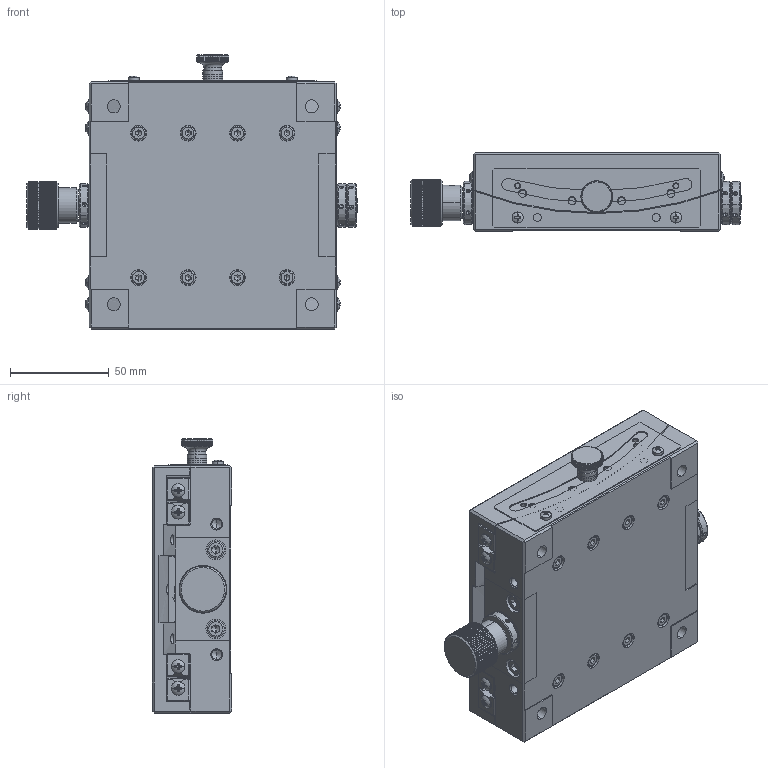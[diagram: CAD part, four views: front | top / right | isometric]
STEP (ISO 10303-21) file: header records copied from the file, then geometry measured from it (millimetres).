
FILE_DESCRIPTION (( 'STEP AP203' ), '1' );
FILE_NAME ('PT-SD3144-0忒雄褒弇怢.STEP', '2021-04-08T07:00:38', ( 'SALES' ), ( 'Microsoft' ), 'SwSTEP 2.0', 'SolidWorks 2016', '' );
FILE_SCHEMA (( 'CONFIG_CONTROL_DESIGN' ));
Length unit declared in the file: millimetre
Products named in the file (22): PT-SD3144-0忒雄褒弇怢; 钢球5G10b; PT-SD3144-06恦謫_GearTrax; 十字大圆头M3x6（304）_JIS B 1111 Truss head screw M3 x 5 --5N; PT-SD3144-07忒謫; cross recessed pan head screws gb_GB_CROSS_SCREWS_TYPE1 M3X4-4  H type-N; PT-SD3144-08絳寢; 内六角圆柱头螺钉M5x12（304）_GB_FASTENER_SCREWS_HSHCS M5X10-C; PT-SD3144-09悵厥殤; PT-SD3144-01菁釱; 内六角圆柱头螺钉M4x12（304）_GB_FASTENER_SCREWS_HSHCS M4X10-N; PT-SD3144-10癹弇え; PT-SD3144-02粣創釱; 内六角圆柱头螺钉M4x16（304）_GB_FASTENER_SCREWS_HSHCS M4X10-N; 角接触球轴承708C-AC_角接触球轴承708C-AC; PT-SD3144-03坶踡蹟譫; 内六角圆柱头螺钉M4x20（304）_内六角圆柱头螺钉M4x20; 滚花高头螺钉M5x8（304）_GB_KNURLED_SCREWS_TYPE1 M5X8-N; PT-SD3144-04怢醱; 内六角圆柱头螺钉M4x25（304）_内六角圆柱头螺钉M4x20; 平垫圈-C级5_GB_FASTENER_WASHER_SMWC 5; PT-SD3144-05恘裝_GearTrax
Assembly tree (67 placements, depth 2):
  PT-SD3144-0忒雄褒弇怢
    PT-SD3144-01菁釱
    PT-SD3144-02粣創釱  x2
    PT-SD3144-03坶踡蹟譫  x3
    PT-SD3144-04怢醱
    PT-SD3144-05恘裝_GearTrax
    PT-SD3144-06恦謫_GearTrax
    PT-SD3144-07忒謫
    PT-SD3144-08絳寢  x4
    PT-SD3144-09悵厥殤  x2
    PT-SD3144-10癹弇え
    角接触球轴承708C-AC_角接触球轴承708C-AC  x2
    滚花高头螺钉M5x8（304）_GB_KNURLED_SCREWS_TYPE1 M5X8-N
    平垫圈-C级5_GB_FASTENER_WASHER_SMWC 5  x3
    钢球5G10b  x10
    十字大圆头M3x6（304）_JIS B 1111 Truss head screw M3 x 5 --5N  x8
    cross recessed pan head screws gb_GB_CROSS_SCREWS_TYPE1 M3X4-4  H type-N  x2
    内六角圆柱头螺钉M5x12（304）_GB_FASTENER_SCREWS_HSHCS M5X10-C  x4
    内六角圆柱头螺钉M4x12（304）_GB_FASTENER_SCREWS_HSHCS M4X10-N  x8
    内六角圆柱头螺钉M4x16（304）_GB_FASTENER_SCREWS_HSHCS M4X10-N  x4
    内六角圆柱头螺钉M4x20（304）_内六角圆柱头螺钉M4x20  x4
    内六角圆柱头螺钉M4x25（304）_内六角圆柱头螺钉M4x20  x4
Bounding box: 167 x 40 x 138.5 mm (x, y, z)
Volume: 554037.6 mm3; surface area: 187539.8 mm2
Topology: 67 solids, 67 shells, 2774 faces, 7162 edges, 4391 vertices
Faces by surface type: plane 1027, cylinder 896, cone 449, torus 216, bspline 96, sphere 90
Entity records: 80617 total; most frequent: CARTESIAN_POINT 37891, ORIENTED_EDGE 8342, DIRECTION 7941, EDGE_CURVE 4171, AXIS2_PLACEMENT_3D 3158, VERTEX_POINT 2629, EDGE_LOOP 1900, ADVANCED_FACE 1655
